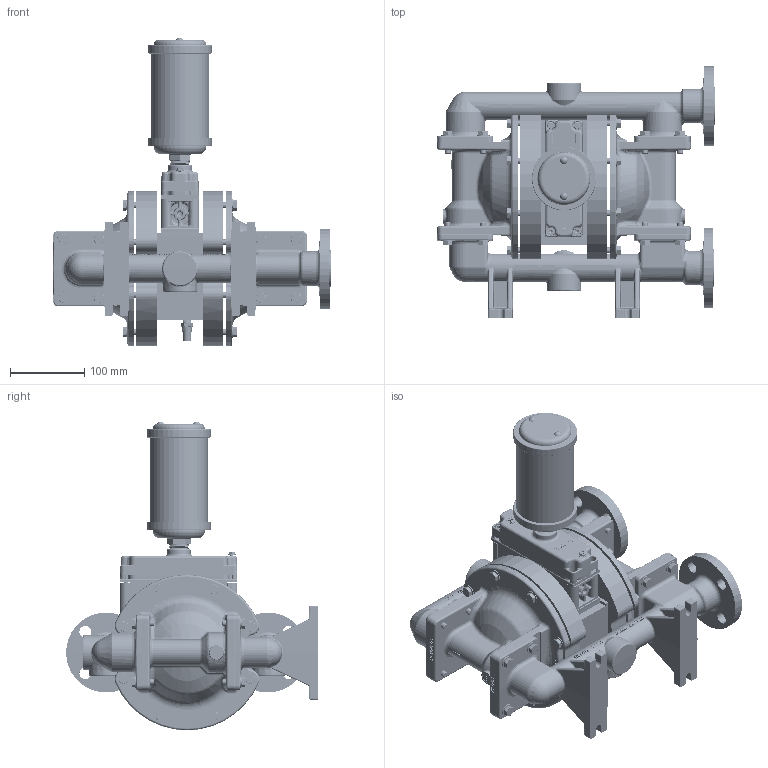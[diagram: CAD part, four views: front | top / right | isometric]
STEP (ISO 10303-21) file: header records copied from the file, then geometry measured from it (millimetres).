
FILE_DESCRIPTION((''),'2;1');
FILE_NAME('PS230_SS_TOP_SW0001','2019-12-09T07:59:58',('10013162'),(''),'CREO PARAMETRIC BY PTC INC, 2018500','CREO PARAMETRIC BY PTC INC, 2018500','');
FILE_SCHEMA(('CONFIG_CONTROL_DESIGN'));
Length unit declared in the file: inch
Products named in the file (1): PS230_SS_TOP_SW0001
Bounding box: 376.36 x 339.98 x 416.86 mm (x, y, z)
Volume: 5915876.3 mm3; surface area: 945472.8 mm2
Topology: 5 solids, 7 shells, 10445 faces, 27895 edges, 17908 vertices
Faces by surface type: plane 7336, cylinder 1257, bspline 720, cone 603, torus 357, sphere 172
Entity records: 378489 total; most frequent: CARTESIAN_POINT 122911, ORIENTED_EDGE 55758, DIRECTION 48751, EDGE_CURVE 27879, VECTOR 21057, LINE 21057, VERTEX_POINT 17907, AXIS2_PLACEMENT_3D 13847
